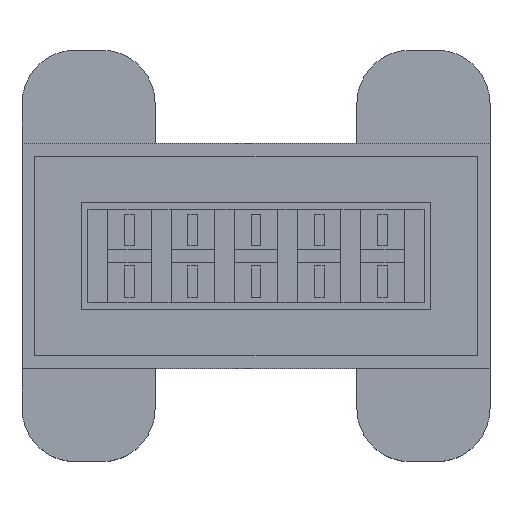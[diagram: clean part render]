
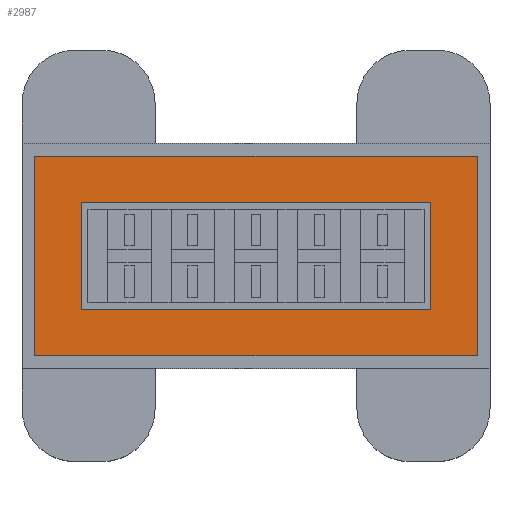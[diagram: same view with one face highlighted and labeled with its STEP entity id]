
A CAD part, top view. The second image highlights one B-rep face of the part: STEP entity #2987.
In plain terms, the highlighted planar face has unit normal (0, 0, 1).
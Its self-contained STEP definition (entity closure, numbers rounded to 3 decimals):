
#43=FACE_BOUND('',#516,.T.);
#165=PLANE('',#3190);
#332=FACE_OUTER_BOUND('',#515,.T.);
#515=EDGE_LOOP('',(#2690,#2691,#2692,#2693));
#516=EDGE_LOOP('',(#2694,#2695,#2696,#2697));
#609=LINE('',#4135,#1001);
#613=LINE('',#4143,#1005);
#616=LINE('',#4149,#1008);
#619=LINE('',#4154,#1011);
#790=LINE('',#4503,#1182);
#794=LINE('',#4511,#1186);
#797=LINE('',#4517,#1189);
#800=LINE('',#4522,#1192);
#1001=VECTOR('',#3367,10.);
#1005=VECTOR('',#3373,10.);
#1008=VECTOR('',#3378,10.);
#1011=VECTOR('',#3383,10.);
#1182=VECTOR('',#3658,10.);
#1186=VECTOR('',#3664,10.);
#1189=VECTOR('',#3669,10.);
#1192=VECTOR('',#3674,10.);
#1402=VERTEX_POINT('',#4133);
#1403=VERTEX_POINT('',#4134);
#1406=VERTEX_POINT('',#4142);
#1408=VERTEX_POINT('',#4148);
#1534=VERTEX_POINT('',#4501);
#1535=VERTEX_POINT('',#4502);
#1538=VERTEX_POINT('',#4510);
#1540=VERTEX_POINT('',#4516);
#1697=EDGE_CURVE('',#1402,#1403,#609,.T.);
#1701=EDGE_CURVE('',#1403,#1406,#613,.T.);
#1704=EDGE_CURVE('',#1406,#1408,#616,.T.);
#1707=EDGE_CURVE('',#1408,#1402,#619,.T.);
#1878=EDGE_CURVE('',#1534,#1535,#790,.T.);
#1882=EDGE_CURVE('',#1538,#1534,#794,.T.);
#1885=EDGE_CURVE('',#1540,#1538,#797,.T.);
#1888=EDGE_CURVE('',#1535,#1540,#800,.T.);
#2690=ORIENTED_EDGE('',*,*,#1697,.T.);
#2691=ORIENTED_EDGE('',*,*,#1701,.T.);
#2692=ORIENTED_EDGE('',*,*,#1704,.T.);
#2693=ORIENTED_EDGE('',*,*,#1707,.T.);
#2694=ORIENTED_EDGE('',*,*,#1878,.T.);
#2695=ORIENTED_EDGE('',*,*,#1888,.T.);
#2696=ORIENTED_EDGE('',*,*,#1885,.T.);
#2697=ORIENTED_EDGE('',*,*,#1882,.T.);
#2987=ADVANCED_FACE('',(#332,#43),#165,.T.);
#3190=AXIS2_PLACEMENT_3D('',#4678,#3840,#3841);
#3367=DIRECTION('',(1.,0.,0.));
#3373=DIRECTION('',(0.,1.,0.));
#3378=DIRECTION('',(-1.,0.,0.));
#3383=DIRECTION('',(0.,-1.,0.));
#3658=DIRECTION('',(1.,0.,0.));
#3664=DIRECTION('',(0.,1.,0.));
#3669=DIRECTION('',(-1.,0.,0.));
#3674=DIRECTION('',(0.,-1.,0.));
#3840=DIRECTION('center_axis',(0.,0.,1.));
#3841=DIRECTION('ref_axis',(1.,0.,0.));
#4133=CARTESIAN_POINT('',(-8.,-8.,0.));
#4134=CARTESIAN_POINT('',(58.5,-8.,0.));
#4135=CARTESIAN_POINT('',(41.875,-8.,0.));
#4142=CARTESIAN_POINT('',(58.5,22.,0.));
#4143=CARTESIAN_POINT('',(58.5,14.5,0.));
#4148=CARTESIAN_POINT('',(-8.,22.,0.));
#4149=CARTESIAN_POINT('',(8.625,22.,0.));
#4154=CARTESIAN_POINT('',(-8.,-0.5,0.));
#4501=CARTESIAN_POINT('',(-1.,15.,0.));
#4502=CARTESIAN_POINT('',(51.5,15.,0.));
#4503=CARTESIAN_POINT('',(12.125,15.,0.));
#4510=CARTESIAN_POINT('',(-1.,-1.,0.));
#4511=CARTESIAN_POINT('',(-1.,3.,0.));
#4516=CARTESIAN_POINT('',(51.5,-1.,0.));
#4517=CARTESIAN_POINT('',(38.375,-1.,0.));
#4522=CARTESIAN_POINT('',(51.5,11.,0.));
#4678=CARTESIAN_POINT('Origin',(25.25,7.,0.));
